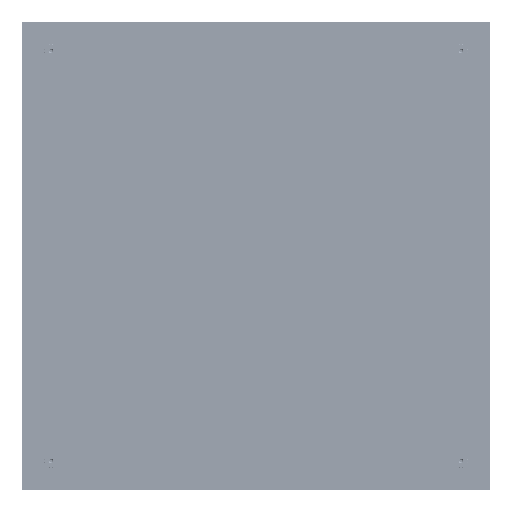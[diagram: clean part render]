
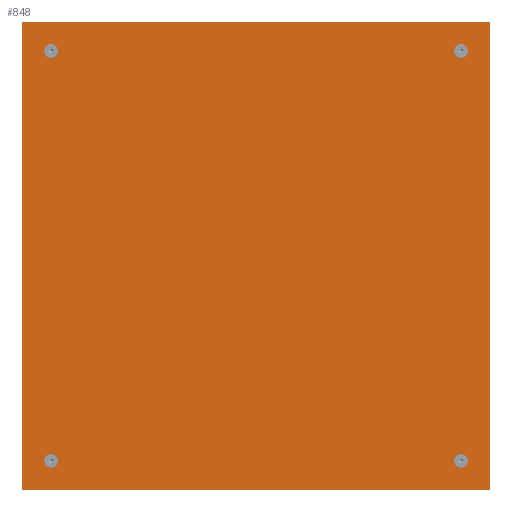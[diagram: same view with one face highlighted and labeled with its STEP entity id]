
A CAD part, front view. The second image highlights one B-rep face of the part: STEP entity #848.
In plain terms, the highlighted planar face has unit normal (0, -1, 0) as drawn and (0, 1, 0) by its records, which use the part's own axes.
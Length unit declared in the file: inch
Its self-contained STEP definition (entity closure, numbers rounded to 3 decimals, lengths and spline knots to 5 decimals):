
#70 = DIRECTION ( 'NONE',  ( 1., 0., 0. ) ) ;
#350 = DIRECTION ( 'NONE',  ( 0., 1., 0. ) ) ;
#732 = VERTEX_POINT ( 'NONE', #31095 ) ;
#848 = ADVANCED_FACE ( 'NONE', ( #12107, #28885, #22153, #14442, #9983 ), #16158, .T. ) ;
#1516 = AXIS2_PLACEMENT_3D ( 'NONE', #14971, #350, #17424 ) ;
#1648 = CARTESIAN_POINT ( 'NONE',  ( -7.9934, 0.0625, -7.7279 ) ) ;
#1974 = ORIENTED_EDGE ( 'NONE', *, *, #14164, .T. ) ;
#2063 = EDGE_CURVE ( 'NONE', #26709, #11813, #20971, .T. ) ;
#2207 = EDGE_LOOP ( 'NONE', ( #27105, #13370 ) ) ;
#2236 = VERTEX_POINT ( 'NONE', #1648 ) ;
#2404 = CARTESIAN_POINT ( 'NONE',  ( -9.125, 0.0625, 9.125 ) ) ;
#2569 = DIRECTION ( 'NONE',  ( 0., 1., 0. ) ) ;
#2715 = VERTEX_POINT ( 'NONE', #4547 ) ;
#2835 = EDGE_CURVE ( 'NONE', #2236, #21038, #9909, .T. ) ;
#2987 = CARTESIAN_POINT ( 'NONE',  ( 0., 0.0625, 0. ) ) ;
#4251 = CARTESIAN_POINT ( 'NONE',  ( -9.125, 0.0625, -9.125 ) ) ;
#4375 = EDGE_LOOP ( 'NONE', ( #16746, #7810 ) ) ;
#4547 = CARTESIAN_POINT ( 'NONE',  ( 9.125, 0.0625, 9.125 ) ) ;
#4913 = ORIENTED_EDGE ( 'NONE', *, *, #18842, .T. ) ;
#5046 = ORIENTED_EDGE ( 'NONE', *, *, #12462, .T. ) ;
#5063 = EDGE_LOOP ( 'NONE', ( #17632, #30138 ) ) ;
#5261 = CARTESIAN_POINT ( 'NONE',  ( -7.9934, 0.0625, -7.9934 ) ) ;
#5283 = DIRECTION ( 'NONE',  ( 0., 0., 1. ) ) ;
#5842 = AXIS2_PLACEMENT_3D ( 'NONE', #24506, #15650, #31787 ) ;
#5954 = CARTESIAN_POINT ( 'NONE',  ( -7.9934, 0.0625, 7.7279 ) ) ;
#5988 = VECTOR ( 'NONE', #22632, 39.37008 ) ;
#6054 = DIRECTION ( 'NONE',  ( 0., 1., 0. ) ) ;
#6263 = CARTESIAN_POINT ( 'NONE',  ( 7.9934, 0.0625, 8.2589 ) ) ;
#7224 = CIRCLE ( 'NONE', #21419, 0.2655 ) ;
#7348 = CARTESIAN_POINT ( 'NONE',  ( -9.125, 0.0625, -9.125 ) ) ;
#7509 = ORIENTED_EDGE ( 'NONE', *, *, #14016, .F. ) ;
#7681 = DIRECTION ( 'NONE',  ( 0., 0., 1. ) ) ;
#7810 = ORIENTED_EDGE ( 'NONE', *, *, #9858, .F. ) ;
#7915 = CARTESIAN_POINT ( 'NONE',  ( 7.9934, 0.0625, -7.9934 ) ) ;
#8384 = EDGE_CURVE ( 'NONE', #11813, #26709, #31558, .T. ) ;
#8932 = VERTEX_POINT ( 'NONE', #6263 ) ;
#8977 = CIRCLE ( 'NONE', #1516, 0.2655 ) ;
#9228 = ORIENTED_EDGE ( 'NONE', *, *, #28417, .T. ) ;
#9262 = VERTEX_POINT ( 'NONE', #9717 ) ;
#9400 = LINE ( 'NONE', #7348, #18190 ) ;
#9628 = CARTESIAN_POINT ( 'NONE',  ( 7.9934, 0.0625, -7.9934 ) ) ;
#9716 = AXIS2_PLACEMENT_3D ( 'NONE', #7915, #30945, #30507 ) ;
#9717 = CARTESIAN_POINT ( 'NONE',  ( 9.125, 0.0625, -9.125 ) ) ;
#9858 = EDGE_CURVE ( 'NONE', #21038, #2236, #7224, .T. ) ;
#9909 = CIRCLE ( 'NONE', #5842, 0.2655 ) ;
#9983 = FACE_OUTER_BOUND ( 'NONE', #28526, .T. ) ;
#10631 = AXIS2_PLACEMENT_3D ( 'NONE', #12169, #29437, #14641 ) ;
#10677 = EDGE_LOOP ( 'NONE', ( #16205, #7509 ) ) ;
#10680 = CARTESIAN_POINT ( 'NONE',  ( -9.125, 0.0625, -9.125 ) ) ;
#10696 = CIRCLE ( 'NONE', #10631, 0.2655 ) ;
#11813 = VERTEX_POINT ( 'NONE', #13008 ) ;
#12091 = DIRECTION ( 'NONE',  ( 0., 0., 1. ) ) ;
#12107 = FACE_BOUND ( 'NONE', #4375, .T. ) ;
#12169 = CARTESIAN_POINT ( 'NONE',  ( -7.9934, 0.0625, 7.9934 ) ) ;
#12324 = LINE ( 'NONE', #10680, #5988 ) ;
#12339 = DIRECTION ( 'NONE',  ( 0., 0., 1. ) ) ;
#12360 = AXIS2_PLACEMENT_3D ( 'NONE', #17195, #2569, #19711 ) ;
#12462 = EDGE_CURVE ( 'NONE', #732, #2715, #12599, .T. ) ;
#12599 = LINE ( 'NONE', #2404, #16317 ) ;
#12653 = VERTEX_POINT ( 'NONE', #18563 ) ;
#13008 = CARTESIAN_POINT ( 'NONE',  ( 7.9934, 0.0625, -7.7279 ) ) ;
#13370 = ORIENTED_EDGE ( 'NONE', *, *, #2063, .F. ) ;
#14016 = EDGE_CURVE ( 'NONE', #12653, #8932, #8977, .T. ) ;
#14139 = VECTOR ( 'NONE', #15400, 39.37008 ) ;
#14164 = EDGE_CURVE ( 'NONE', #9262, #21155, #12324, .T. ) ;
#14442 = FACE_BOUND ( 'NONE', #10677, .T. ) ;
#14493 = CIRCLE ( 'NONE', #21603, 0.2655 ) ;
#14641 = DIRECTION ( 'NONE',  ( 0., 0., 1. ) ) ;
#14971 = CARTESIAN_POINT ( 'NONE',  ( 7.9934, 0.0625, 7.9934 ) ) ;
#15400 = DIRECTION ( 'NONE',  ( 0., 0., -1. ) ) ;
#15650 = DIRECTION ( 'NONE',  ( 0., 1., 0. ) ) ;
#15726 = CARTESIAN_POINT ( 'NONE',  ( 9.125, 0.0625, -9.125 ) ) ;
#16158 = PLANE ( 'NONE',  #21205 ) ;
#16205 = ORIENTED_EDGE ( 'NONE', *, *, #24033, .F. ) ;
#16317 = VECTOR ( 'NONE', #70, 39.37008 ) ;
#16746 = ORIENTED_EDGE ( 'NONE', *, *, #2835, .F. ) ;
#17195 = CARTESIAN_POINT ( 'NONE',  ( 7.9934, 0.0625, 7.9934 ) ) ;
#17424 = DIRECTION ( 'NONE',  ( 0., 0., 1. ) ) ;
#17632 = ORIENTED_EDGE ( 'NONE', *, *, #26578, .F. ) ;
#18190 = VECTOR ( 'NONE', #12339, 39.37008 ) ;
#18563 = CARTESIAN_POINT ( 'NONE',  ( 7.9934, 0.0625, 7.7279 ) ) ;
#18842 = EDGE_CURVE ( 'NONE', #21155, #732, #9400, .T. ) ;
#19711 = DIRECTION ( 'NONE',  ( 0., 0., 1. ) ) ;
#19726 = DIRECTION ( 'NONE',  ( 0., 1., 0. ) ) ;
#20259 = VERTEX_POINT ( 'NONE', #20368 ) ;
#20368 = CARTESIAN_POINT ( 'NONE',  ( -7.9934, 0.0625, 8.2589 ) ) ;
#20747 = CARTESIAN_POINT ( 'NONE',  ( -7.9934, 0.0625, 7.9934 ) ) ;
#20971 = CIRCLE ( 'NONE', #9716, 0.2655 ) ;
#21038 = VERTEX_POINT ( 'NONE', #26769 ) ;
#21155 = VERTEX_POINT ( 'NONE', #4251 ) ;
#21205 = AXIS2_PLACEMENT_3D ( 'NONE', #2987, #19726, #5283 ) ;
#21419 = AXIS2_PLACEMENT_3D ( 'NONE', #5261, #22396, #7681 ) ;
#21603 = AXIS2_PLACEMENT_3D ( 'NONE', #20747, #6054, #23208 ) ;
#22153 = FACE_BOUND ( 'NONE', #5063, .T. ) ;
#22396 = DIRECTION ( 'NONE',  ( 0., 1., 0. ) ) ;
#22632 = DIRECTION ( 'NONE',  ( -1., 0., 0. ) ) ;
#23005 = LINE ( 'NONE', #15726, #14139 ) ;
#23208 = DIRECTION ( 'NONE',  ( 0., 0., 1. ) ) ;
#24033 = EDGE_CURVE ( 'NONE', #8932, #12653, #30406, .T. ) ;
#24506 = CARTESIAN_POINT ( 'NONE',  ( -7.9934, 0.0625, -7.9934 ) ) ;
#24775 = CARTESIAN_POINT ( 'NONE',  ( 7.9934, 0.0625, -8.2589 ) ) ;
#26578 = EDGE_CURVE ( 'NONE', #20259, #29645, #10696, .T. ) ;
#26709 = VERTEX_POINT ( 'NONE', #24775 ) ;
#26769 = CARTESIAN_POINT ( 'NONE',  ( -7.9934, 0.0625, -8.2589 ) ) ;
#26849 = DIRECTION ( 'NONE',  ( 0., 1., 0. ) ) ;
#27105 = ORIENTED_EDGE ( 'NONE', *, *, #8384, .F. ) ;
#28417 = EDGE_CURVE ( 'NONE', #2715, #9262, #23005, .T. ) ;
#28526 = EDGE_LOOP ( 'NONE', ( #4913, #5046, #9228, #1974 ) ) ;
#28807 = AXIS2_PLACEMENT_3D ( 'NONE', #9628, #26849, #12091 ) ;
#28885 = FACE_BOUND ( 'NONE', #2207, .T. ) ;
#29437 = DIRECTION ( 'NONE',  ( 0., 1., 0. ) ) ;
#29642 = EDGE_CURVE ( 'NONE', #29645, #20259, #14493, .T. ) ;
#29645 = VERTEX_POINT ( 'NONE', #5954 ) ;
#30138 = ORIENTED_EDGE ( 'NONE', *, *, #29642, .F. ) ;
#30406 = CIRCLE ( 'NONE', #12360, 0.2655 ) ;
#30507 = DIRECTION ( 'NONE',  ( 0., 0., 1. ) ) ;
#30945 = DIRECTION ( 'NONE',  ( 0., 1., 0. ) ) ;
#31095 = CARTESIAN_POINT ( 'NONE',  ( -9.125, 0.0625, 9.125 ) ) ;
#31558 = CIRCLE ( 'NONE', #28807, 0.2655 ) ;
#31787 = DIRECTION ( 'NONE',  ( 0., 0., 1. ) ) ;
